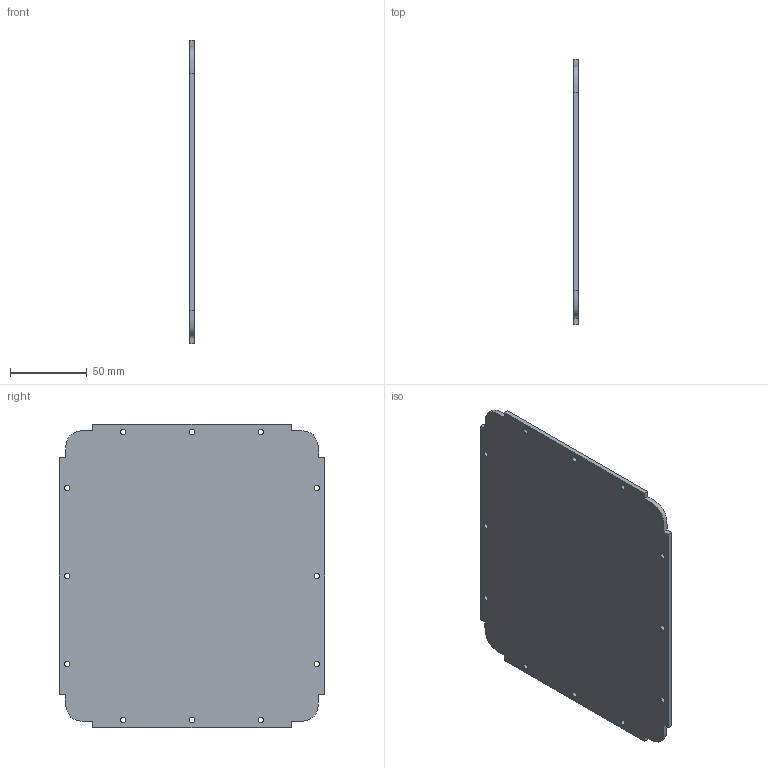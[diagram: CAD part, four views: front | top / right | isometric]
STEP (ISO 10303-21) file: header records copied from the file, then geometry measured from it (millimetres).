
FILE_DESCRIPTION(/* description */ (''),/* implementation_level */ '2;1');
FILE_NAME(/* name */ 'DOOR PANEL.step',/* time_stamp */ '2024-02-28T17:12:42Z',/* author */ (''),/* organization */ (''),/* preprocessor_version */ 'ST-DEVELOPER v20',/* originating_system */ 'Autodesk Translation Framework v12.20.1.177',/* authorisation */ '');
FILE_SCHEMA (('AUTOMOTIVE_DESIGN { 1 0 10303 214 3 1 1 }'));
Length unit declared in the file: millimetre
Products named in the file (1): DOOR PANEL (1)
Bounding box: 3 x 173.4 x 198.4 mm (x, y, z)
Volume: 100566.5 mm3; surface area: 69615.9 mm2
Topology: 1 solids, 1 shells, 30 faces, 84 edges, 56 vertices
Faces by surface type: plane 14, cylinder 12, bspline 4
Full cylindrical faces by diameter (mm): 3.5 x12
Entity records: 1500 total; most frequent: CARTESIAN_POINT 655, ORIENTED_EDGE 168, DIRECTION 146, EDGE_CURVE 84, VERTEX_POINT 56, EDGE_LOOP 54, AXIS2_PLACEMENT_3D 51, LINE 44
